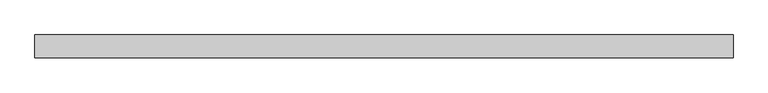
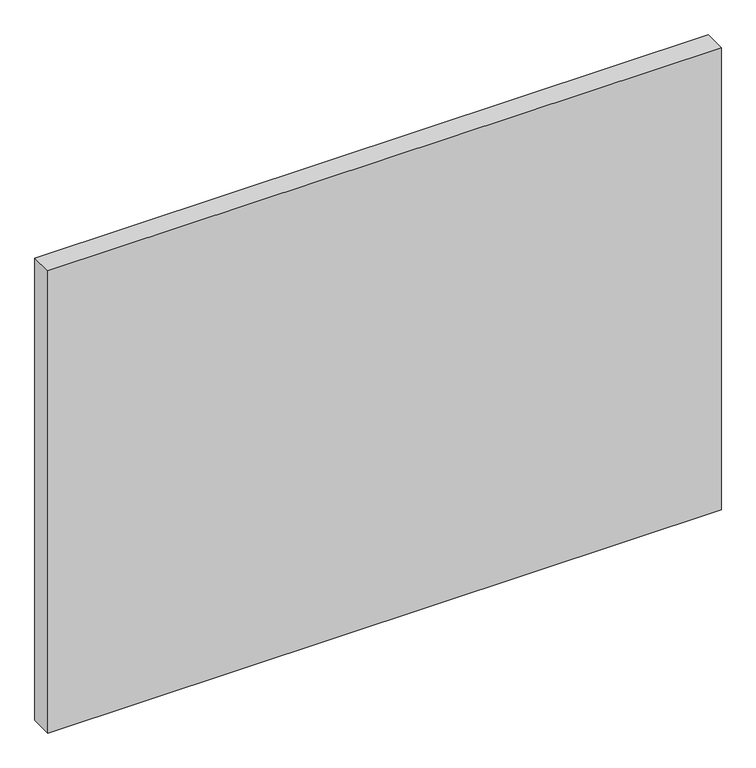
"""IFC4 building model written with IfcOpenShell, lengths in millimetres: plate geometry, Panneau système : Vitré."""

from ifc_helpers import new_model, si_unit, origin, origin_with_axes, place, context, project, spatial, polyline, outline, extrude, source, transform, mapped, element, save


def plate_08b934fe(model_context):
    return source(origin(), model_context, "Body", "SweptSolid", [
        extrude(outline(polyline([(609.9999999, -20.0), (-609.9999999, -20.0), (-609.9999999, 20.0), (609.9999999, 20.0), (609.9999999, -20.0)])), origin_with_axes(), (0.0, 0.0, 1.0), 885.0),
    ])


if __name__ == "__main__":
    model = new_model("IFC4")
    model_context = context("Model", 3, world=origin())
    ifc_project = project(units=[si_unit("LENGTHUNIT", "METRE", prefix="MILLI")], contexts=[model_context])
    site = spatial("IfcSite", under=ifc_project)
    building = spatial("IfcBuilding", under=site)
    placement = place(None, origin())
    plate_shape = plate_08b934fe(model_context)
    element("IfcPlate", 1, ObjectType="Panneau système : Vitré", at=placement, inside=building, context=model_context, shape_type="MappedRepresentation", body=[
        mapped(plate_shape, transform((0.0, 0.0, 0.0), x_axis=(1.0, 0.0, 0.0), y_axis=(0.0, 1.0, 0.0), z_axis=(0.0, 0.0, 1.0))),
    ])
    save(model, "model.ifc")
